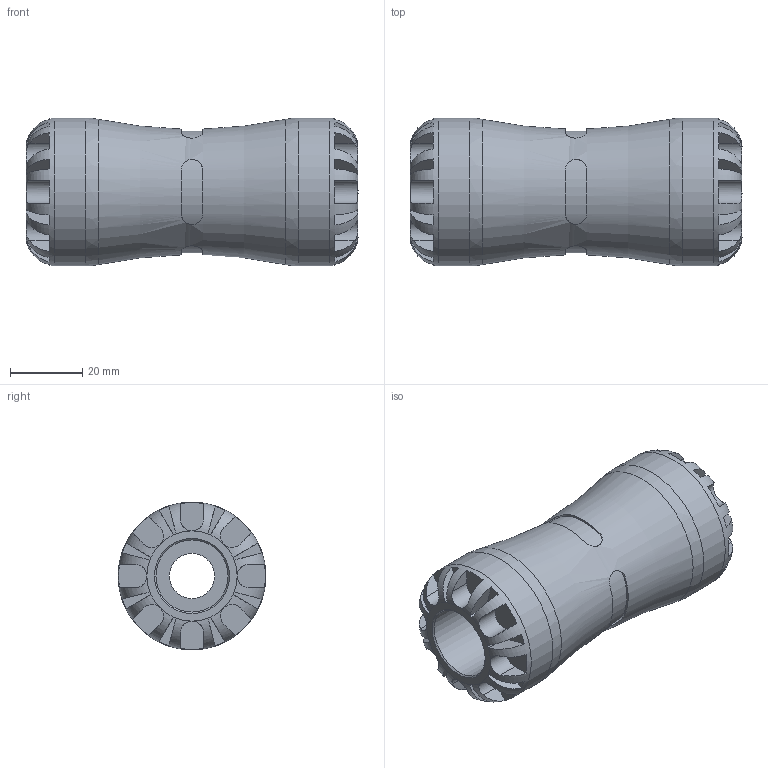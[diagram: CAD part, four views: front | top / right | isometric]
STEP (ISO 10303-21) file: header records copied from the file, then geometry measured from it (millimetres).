
FILE_DESCRIPTION(/* description */ ('PLASSON COPPER PIPE ADAPTOR 20X15 SERIES 1'),/* implementation_level */ '2;1');
FILE_NAME(/* name */ 'C:\Dropbox\KIMPROJECTS-Inventor\99-16-3568-Processing\1001C\1001C0020015_1901C0020015.ipt.stp',/* time_stamp */ '2017-01-22T10:04:45+02:00',/* author */ ('KIM'),/* organization */ (''),/* preprocessor_version */ 'ST-DEVELOPER v15.6',/* originating_system */ 'Autodesk Inventor 2015',/* authorisation */ '');
FILE_SCHEMA (('AUTOMOTIVE_DESIGN { 1 0 10303 214 3 1 1 }'));
Length unit declared in the file: millimetre
Products named in the file (1): 1001C0020015_1901C0020015
Bounding box: 92 x 41 x 41 mm (x, y, z)
Volume: 77489.5 mm3; surface area: 20102.9 mm2
Topology: 1 solids, 1 shells, 164 faces, 419 edges, 262 vertices
Faces by surface type: plane 108, cylinder 49, torus 3, cone 2, bspline 2
Full cylindrical faces by diameter (mm): 12.5 x1, 15 x1, 20 x1, 41 x2
Entity records: 6416 total; most frequent: CARTESIAN_POINT 2447, ORIENTED_EDGE 808, DIRECTION 762, EDGE_CURVE 404, AXIS2_PLACEMENT_3D 309, VERTEX_POINT 258, EDGE_LOOP 182, STYLED_ITEM 165
